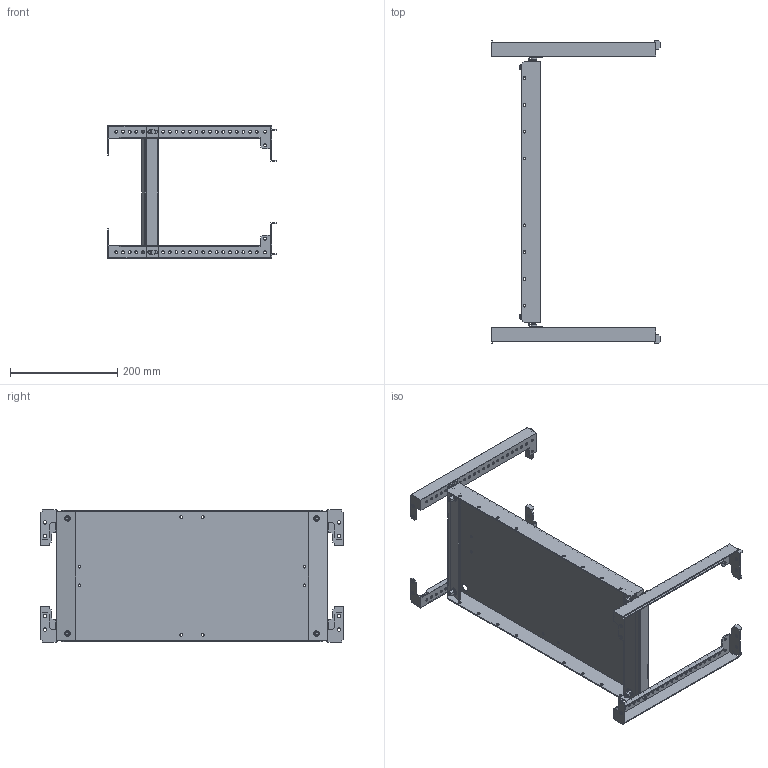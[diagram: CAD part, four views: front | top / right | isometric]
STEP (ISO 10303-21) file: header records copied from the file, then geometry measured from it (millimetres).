
FILE_DESCRIPTION (( 'STEP AP214' ), '1' );
FILE_NAME ('FO-00-MPU-025-060 Ïàíåëü ìîíòàæíàÿ óíèâåðñàëüíàÿ 250?600 ìì.STEP', '2025-07-16T07:06:10', ( '' ), ( '' ), 'SwSTEP 2.0', 'SolidWorks 2023', '' );
FILE_SCHEMA (( 'AUTOMOTIVE_DESIGN' ));
Length unit declared in the file: millimetre
Products named in the file (5): Панель монтажная универсальная 250x600; Винты DIN 912 4xM6x20 250x600; Траверса горизонтальная; FO-00-MPU-025-060 Панель монтажная универсальная 250×600 мм; Траверса горизонтальнаяD
Assembly tree (6 placements, depth 2):
  FO-00-MPU-025-060 Панель монтажная универсальная 250×600 мм
    Панель монтажная универсальная 250x600
    Траверса горизонтальная  x2
    Траверса горизонтальнаяD  x2
    Винты DIN 912 4xM6x20 250x600
Bounding box: 314.53 x 565.63 x 247 mm (x, y, z)
Volume: 579926.3 mm3; surface area: 596495.7 mm2
Topology: 9 solids, 13 shells, 1010 faces, 2744 edges, 1808 vertices
Faces by surface type: cylinder 468, plane 454, cone 56, torus 32
Entity records: 26087 total; most frequent: CARTESIAN_POINT 5387, DIRECTION 4400, ORIENTED_EDGE 4156, EDGE_CURVE 2078, AXIS2_PLACEMENT_3D 1609, VERTEX_POINT 1364, LINE 1182, VECTOR 1182
